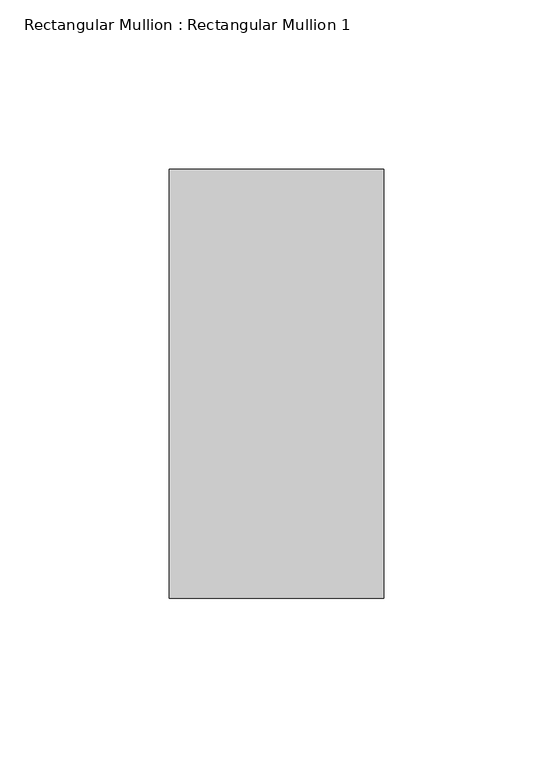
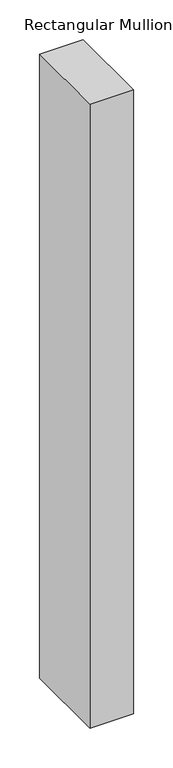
"""IFC4 building model written with IfcOpenShell, lengths in millimetres: member geometry, Rectangular Mullion : Rectangular Mullion 1."""

import ifcopenshell
import ifcopenshell.guid

model = None  # the IFC model being written
_history = None  # IfcOwnerHistory: only IFC2X3 demands one
_inside = {}  # id of a spatial element -> (the spatial element, [elements in it])
_under = {}  # id of a project, library or spatial element -> (it, [spatial elements below it])
_declared = {}  # id of a project -> (the project, [libraries it declares])
_typed = {}  # id of a type object -> (the type object, [elements of that type])
_made_of = {}  # id of a material, layer set ... -> (it, [elements and type objects made of it])


def new_model(schema):
    """Start an empty IFC model of exactly this schema.

    Asked for "IFC4X3", IfcOpenShell would pick the latest addendum, in which some entities
    have other attributes; the version numbers below select the first issue.
    IFC2X3 requires an IfcOwnerHistory on every rooted entity: one is made here for all.
    """
    global model, _history
    if schema == "IFC4X3":
        model = ifcopenshell.file(schema_version=(4, 3, 0, 0))
    else:
        model = ifcopenshell.file(schema=schema)
    _inside.clear()
    _under.clear()
    _declared.clear()
    _typed.clear()
    _made_of.clear()
    _history = None
    if model.schema == "IFC2X3":
        org = make("IfcOrganization", Name="unknown")
        user = make(
            "IfcPersonAndOrganization",
            ThePerson=make("IfcPerson", FamilyName="unknown"),
            TheOrganization=org,
        )
        app = make(
            "IfcApplication",
            ApplicationDeveloper=org,
            Version="unknown",
            ApplicationFullName="unknown",
            ApplicationIdentifier="unknown",
        )
        _history = make(
            "IfcOwnerHistory",
            OwningUser=user,
            OwningApplication=app,
            ChangeAction="ADDED",
            CreationDate=0,
        )
    return model


def make(cls, **values):
    """One entity of the class cls with the attributes given. An attribute that is None is left unset."""
    return model.create_entity(
        cls, **{name: value for name, value in values.items() if value is not None}
    )


def rooted(cls, **values):
    """An entity with a GlobalId (a new one), such as an element, a storey or a relation."""
    return make(cls, GlobalId=ifcopenshell.guid.new(), OwnerHistory=_history, **values)


def si_unit(unit_type, name, prefix=None):
    """IfcSIUnit, for example si_unit("LENGTHUNIT", "METRE", prefix="MILLI")."""
    return make("IfcSIUnit", UnitType=unit_type, Prefix=prefix, Name=name)


def assignment(units):
    """IfcUnitAssignment: the units of a project."""
    return None if units is None else make("IfcUnitAssignment", Units=units)


def point(xyz):
    """IfcCartesianPoint."""
    return None if xyz is None else make("IfcCartesianPoint", Coordinates=xyz)


def direction(xyz):
    """IfcDirection."""
    return None if xyz is None else make("IfcDirection", DirectionRatios=xyz)


def frame(location, z_axis=None, x_axis=None):
    """IfcAxis2Placement3D, a coordinate frame: its origin and axes. An axis left out is left unset."""
    return make(
        "IfcAxis2Placement3D",
        Location=point(location),
        Axis=direction(z_axis),
        RefDirection=direction(x_axis),
    )


def origin():
    """The frame at (0, 0, 0) with its axes left unset."""
    return frame((0.0, 0.0, 0.0))


def place(relative_to, where):
    """IfcLocalPlacement: puts the frame where relative to a parent placement (None: the world)."""
    return make(
        "IfcLocalPlacement", PlacementRelTo=relative_to, RelativePlacement=where
    )


def context(
    kind, dimensions, precision=None, world=None, true_north=None, identifier=None
):
    """IfcGeometricRepresentationContext, for example the 3D "Model" context."""
    return make(
        "IfcGeometricRepresentationContext",
        ContextIdentifier=identifier,
        ContextType=kind,
        CoordinateSpaceDimension=dimensions,
        Precision=precision,
        WorldCoordinateSystem=world,
        TrueNorth=true_north,
    )


def project(units=None, contexts=None):
    """IfcProject with its units and contexts."""
    return rooted(
        "IfcProject",
        Name="project",
        RepresentationContexts=contexts,
        UnitsInContext=assignment(units),
    )


def spatial(cls, under=None, at=None, **own):
    """A site, building, storey or space (cls), placed at a placement, below another one or the project."""
    s = rooted(cls, ObjectPlacement=at, **own)
    if under is not None:
        _under.setdefault(under.id(), (under, []))[1].append(s)
    return s


def polyline(points):
    """IfcPolyline through the points."""
    return make("IfcPolyline", Points=[point(p) for p in points])


def outline(outer, holes=None, kind="AREA"):
    """IfcArbitraryClosedProfileDef: a profile drawn as a closed curve; with holes, ...WithVoids."""
    if holes is None:
        return make("IfcArbitraryClosedProfileDef", ProfileType=kind, OuterCurve=outer)
    return make(
        "IfcArbitraryProfileDefWithVoids",
        ProfileType=kind,
        OuterCurve=outer,
        InnerCurves=holes,
    )


def extrude(swept, where, along, depth):
    """IfcExtrudedAreaSolid: the profile swept, set in the frame where, extruded along a direction by depth."""
    return make(
        "IfcExtrudedAreaSolid",
        SweptArea=swept,
        Position=where,
        ExtrudedDirection=direction(along),
        Depth=depth,
    )


def shape(context_of_items, identifier, shape_type, items):
    """IfcShapeRepresentation: the items that make up one representation, for example the "Body"."""
    return make(
        "IfcShapeRepresentation",
        ContextOfItems=context_of_items,
        RepresentationIdentifier=identifier,
        RepresentationType=shape_type,
        Items=items,
    )


def source(mapping_origin, context_of_items, identifier, shape_type, items):
    """IfcRepresentationMap: a shape defined once, which mapped items show again and again."""
    return make(
        "IfcRepresentationMap",
        MappingOrigin=mapping_origin,
        MappedRepresentation=shape(context_of_items, identifier, shape_type, items),
    )


def transform(
    local_origin,
    x_axis=None,
    y_axis=None,
    z_axis=None,
    scale=None,
    scale2=None,
    scale3=None,
    uniform=True,
):
    """IfcCartesianTransformationOperator3D, or its non-uniform kind. x_axis, y_axis, z_axis: its Axis1, 2, 3."""
    if uniform:
        return make(
            "IfcCartesianTransformationOperator3D",
            Axis1=direction(x_axis),
            Axis2=direction(y_axis),
            LocalOrigin=point(local_origin),
            Scale=scale,
            Axis3=direction(z_axis),
        )
    return make(
        "IfcCartesianTransformationOperator3DnonUniform",
        Axis1=direction(x_axis),
        Axis2=direction(y_axis),
        LocalOrigin=point(local_origin),
        Scale=scale,
        Axis3=direction(z_axis),
        Scale2=scale2,
        Scale3=scale3,
    )


def mapped(mapping_source, mapping_target):
    """IfcMappedItem: shows the shape of a source again, moved by a transform."""
    return make(
        "IfcMappedItem", MappingSource=mapping_source, MappingTarget=mapping_target
    )


def made_of(thing, what):
    """Note that an element or type object is made of a material, layer set ...; save() writes the relation."""
    if what is not None:
        _made_of.setdefault(what.id(), (what, []))[1].append(thing)
    return thing


def element(
    cls,
    number,
    at=None,
    inside=None,
    cuts=None,
    type_object=None,
    material=None,
    context=None,
    identifier="Body",
    shape_type=None,
    held_by="IfcProductDefinitionShape",
    body=None,
    shapes=None,
    **own,
):
    """One element of the class cls, such as IfcWall. Its Tag is "e" and its number.

    at: its placement. inside: the storey or other place that contains it. cuts: it is an
    opening in that element (IfcRelVoidsElement). A single representation is given by context,
    identifier, shape_type and body (its items); several are given by shapes. held_by: the class
    of the entity that holds the representations. save() writes the other relations.
    """
    e = rooted(cls, Tag="e%d" % number, ObjectPlacement=at, **own)
    if body is not None:
        shapes = [shape(context, identifier, shape_type, body)]
    if shapes is not None:
        e.Representation = make(held_by, Representations=shapes)
    if inside is not None:
        _inside.setdefault(inside.id(), (inside, []))[1].append(e)
    if cuts is not None:
        rooted(
            "IfcRelVoidsElement", RelatingBuildingElement=cuts, RelatedOpeningElement=e
        )
    if type_object is not None:
        _typed.setdefault(type_object.id(), (type_object, []))[1].append(e)
    return made_of(e, material)


def aggregate(whole, parts):
    """IfcRelAggregates: a whole, such as a stair, and the parts it consists of."""
    return rooted("IfcRelAggregates", RelatingObject=whole, RelatedObjects=parts)


def save(model, path):
    """Write the relations noted so far, then the file.

    IfcRelAggregates (storeys below a building ...), IfcRelContainedInSpatialStructure (elements
    in a storey), IfcRelDefinesByType, IfcRelAssociatesMaterial and IfcRelDeclares: one each for
    every whole, place, type object, material and project.
    """
    for whole, parts in _under.values():
        aggregate(whole, parts)
    for where, things in _inside.values():
        rooted(
            "IfcRelContainedInSpatialStructure",
            RelatedElements=things,
            RelatingStructure=where,
        )
    for kind, things in _typed.values():
        rooted("IfcRelDefinesByType", RelatedObjects=things, RelatingType=kind)
    for what, things in _made_of.values():
        rooted("IfcRelAssociatesMaterial", RelatedObjects=things, RelatingMaterial=what)
    for by, libraries in _declared.values():
        rooted("IfcRelDeclares", RelatingContext=by, RelatedDefinitions=libraries)
    model.write(path)


def rectangular_mullion_rectangular_mullion_1_400b9077(model_context):
    return source(origin(), model_context, "Body", "SweptSolid", [
        extrude(outline(polyline([(0.0, 63.5), (0.0, -63.5), (-63.5, -63.5), (-63.5, 63.5), (0.0, 63.5)])), frame((0.0, 0.0, -960.5693705), z_axis=(0.0, 0.0, 1.0), x_axis=(1.0, 0.0, 0.0)), (0.0, 0.0, 1.0), 960.5693705),
    ])


if __name__ == "__main__":
    model = new_model("IFC4")
    model_context = context("Model", 3, world=origin())
    ifc_project = project(units=[si_unit("LENGTHUNIT", "METRE", prefix="MILLI")], contexts=[model_context])
    site = spatial("IfcSite", under=ifc_project)
    building = spatial("IfcBuilding", under=site)
    placement = place(None, origin())
    rectangular_mullion_rectangular_mullion_1_shape = rectangular_mullion_rectangular_mullion_1_400b9077(model_context)
    element("IfcMember", 1, ObjectType="Rectangular Mullion : Rectangular Mullion 1", at=placement, inside=building, context=model_context, shape_type="MappedRepresentation", body=[
        mapped(rectangular_mullion_rectangular_mullion_1_shape, transform((0.0, 0.0, 0.0), x_axis=(1.0, 0.0, 0.0), y_axis=(0.0, 1.0, 0.0), z_axis=(0.0, 0.0, 1.0))),
    ])
    save(model, "model.ifc")
